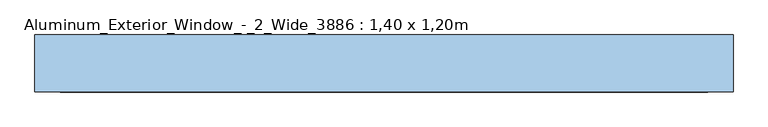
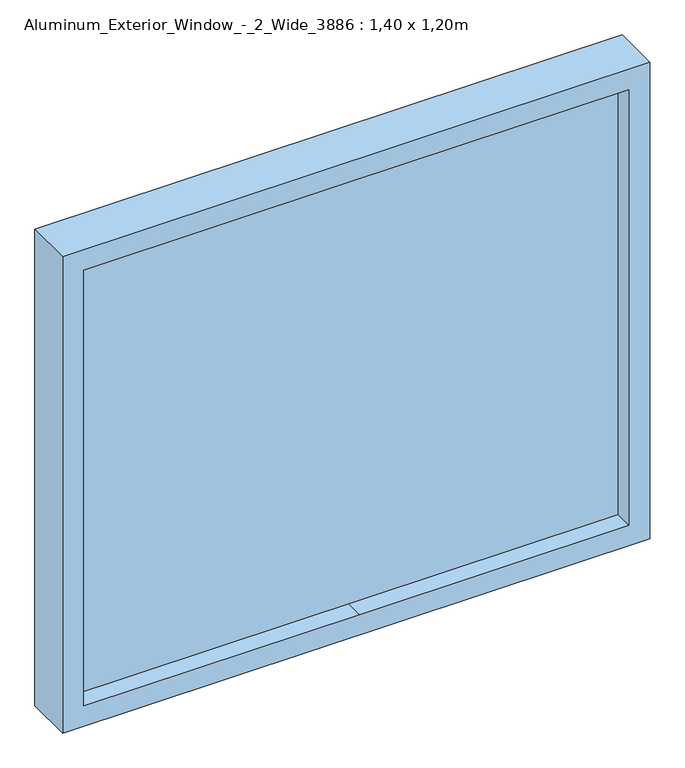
"""IFC4 building model written with IfcOpenShell, lengths in millimetres: window geometry, Aluminum_Exterior_Window_-_2_Wide_3886 : 1,40 x 1,20m."""

import ifcopenshell
import ifcopenshell.guid

model = None  # the IFC model being written
_history = None  # IfcOwnerHistory: only IFC2X3 demands one
_inside = {}  # id of a spatial element -> (the spatial element, [elements in it])
_under = {}  # id of a project, library or spatial element -> (it, [spatial elements below it])
_declared = {}  # id of a project -> (the project, [libraries it declares])
_typed = {}  # id of a type object -> (the type object, [elements of that type])
_made_of = {}  # id of a material, layer set ... -> (it, [elements and type objects made of it])


def new_model(schema):
    """Start an empty IFC model of exactly this schema.

    Asked for "IFC4X3", IfcOpenShell would pick the latest addendum, in which some entities
    have other attributes; the version numbers below select the first issue.
    IFC2X3 requires an IfcOwnerHistory on every rooted entity: one is made here for all.
    """
    global model, _history
    if schema == "IFC4X3":
        model = ifcopenshell.file(schema_version=(4, 3, 0, 0))
    else:
        model = ifcopenshell.file(schema=schema)
    _inside.clear()
    _under.clear()
    _declared.clear()
    _typed.clear()
    _made_of.clear()
    _history = None
    if model.schema == "IFC2X3":
        org = make("IfcOrganization", Name="unknown")
        user = make(
            "IfcPersonAndOrganization",
            ThePerson=make("IfcPerson", FamilyName="unknown"),
            TheOrganization=org,
        )
        app = make(
            "IfcApplication",
            ApplicationDeveloper=org,
            Version="unknown",
            ApplicationFullName="unknown",
            ApplicationIdentifier="unknown",
        )
        _history = make(
            "IfcOwnerHistory",
            OwningUser=user,
            OwningApplication=app,
            ChangeAction="ADDED",
            CreationDate=0,
        )
    return model


def make(cls, **values):
    """One entity of the class cls with the attributes given. An attribute that is None is left unset."""
    return model.create_entity(
        cls, **{name: value for name, value in values.items() if value is not None}
    )


def rooted(cls, **values):
    """An entity with a GlobalId (a new one), such as an element, a storey or a relation."""
    return make(cls, GlobalId=ifcopenshell.guid.new(), OwnerHistory=_history, **values)


def si_unit(unit_type, name, prefix=None):
    """IfcSIUnit, for example si_unit("LENGTHUNIT", "METRE", prefix="MILLI")."""
    return make("IfcSIUnit", UnitType=unit_type, Prefix=prefix, Name=name)


def assignment(units):
    """IfcUnitAssignment: the units of a project."""
    return None if units is None else make("IfcUnitAssignment", Units=units)


def point(xyz):
    """IfcCartesianPoint."""
    return None if xyz is None else make("IfcCartesianPoint", Coordinates=xyz)


def direction(xyz):
    """IfcDirection."""
    return None if xyz is None else make("IfcDirection", DirectionRatios=xyz)


def frame(location, z_axis=None, x_axis=None):
    """IfcAxis2Placement3D, a coordinate frame: its origin and axes. An axis left out is left unset."""
    return make(
        "IfcAxis2Placement3D",
        Location=point(location),
        Axis=direction(z_axis),
        RefDirection=direction(x_axis),
    )


def origin():
    """The frame at (0, 0, 0) with its axes left unset."""
    return frame((0.0, 0.0, 0.0))


def place(relative_to, where):
    """IfcLocalPlacement: puts the frame where relative to a parent placement (None: the world)."""
    return make(
        "IfcLocalPlacement", PlacementRelTo=relative_to, RelativePlacement=where
    )


def context(
    kind, dimensions, precision=None, world=None, true_north=None, identifier=None
):
    """IfcGeometricRepresentationContext, for example the 3D "Model" context."""
    return make(
        "IfcGeometricRepresentationContext",
        ContextIdentifier=identifier,
        ContextType=kind,
        CoordinateSpaceDimension=dimensions,
        Precision=precision,
        WorldCoordinateSystem=world,
        TrueNorth=true_north,
    )


def project(units=None, contexts=None):
    """IfcProject with its units and contexts."""
    return rooted(
        "IfcProject",
        Name="project",
        RepresentationContexts=contexts,
        UnitsInContext=assignment(units),
    )


def spatial(cls, under=None, at=None, **own):
    """A site, building, storey or space (cls), placed at a placement, below another one or the project."""
    s = rooted(cls, ObjectPlacement=at, **own)
    if under is not None:
        _under.setdefault(under.id(), (under, []))[1].append(s)
    return s


def polyline(points):
    """IfcPolyline through the points."""
    return make("IfcPolyline", Points=[point(p) for p in points])


def outline(outer, holes=None, kind="AREA"):
    """IfcArbitraryClosedProfileDef: a profile drawn as a closed curve; with holes, ...WithVoids."""
    if holes is None:
        return make("IfcArbitraryClosedProfileDef", ProfileType=kind, OuterCurve=outer)
    return make(
        "IfcArbitraryProfileDefWithVoids",
        ProfileType=kind,
        OuterCurve=outer,
        InnerCurves=holes,
    )


def extrude(swept, where, along, depth):
    """IfcExtrudedAreaSolid: the profile swept, set in the frame where, extruded along a direction by depth."""
    return make(
        "IfcExtrudedAreaSolid",
        SweptArea=swept,
        Position=where,
        ExtrudedDirection=direction(along),
        Depth=depth,
    )


def shape(context_of_items, identifier, shape_type, items):
    """IfcShapeRepresentation: the items that make up one representation, for example the "Body"."""
    return make(
        "IfcShapeRepresentation",
        ContextOfItems=context_of_items,
        RepresentationIdentifier=identifier,
        RepresentationType=shape_type,
        Items=items,
    )


def source(mapping_origin, context_of_items, identifier, shape_type, items):
    """IfcRepresentationMap: a shape defined once, which mapped items show again and again."""
    return make(
        "IfcRepresentationMap",
        MappingOrigin=mapping_origin,
        MappedRepresentation=shape(context_of_items, identifier, shape_type, items),
    )


def transform(
    local_origin,
    x_axis=None,
    y_axis=None,
    z_axis=None,
    scale=None,
    scale2=None,
    scale3=None,
    uniform=True,
):
    """IfcCartesianTransformationOperator3D, or its non-uniform kind. x_axis, y_axis, z_axis: its Axis1, 2, 3."""
    if uniform:
        return make(
            "IfcCartesianTransformationOperator3D",
            Axis1=direction(x_axis),
            Axis2=direction(y_axis),
            LocalOrigin=point(local_origin),
            Scale=scale,
            Axis3=direction(z_axis),
        )
    return make(
        "IfcCartesianTransformationOperator3DnonUniform",
        Axis1=direction(x_axis),
        Axis2=direction(y_axis),
        LocalOrigin=point(local_origin),
        Scale=scale,
        Axis3=direction(z_axis),
        Scale2=scale2,
        Scale3=scale3,
    )


def mapped(mapping_source, mapping_target):
    """IfcMappedItem: shows the shape of a source again, moved by a transform."""
    return make(
        "IfcMappedItem", MappingSource=mapping_source, MappingTarget=mapping_target
    )


def made_of(thing, what):
    """Note that an element or type object is made of a material, layer set ...; save() writes the relation."""
    if what is not None:
        _made_of.setdefault(what.id(), (what, []))[1].append(thing)
    return thing


def element(
    cls,
    number,
    at=None,
    inside=None,
    cuts=None,
    type_object=None,
    material=None,
    context=None,
    identifier="Body",
    shape_type=None,
    held_by="IfcProductDefinitionShape",
    body=None,
    shapes=None,
    **own,
):
    """One element of the class cls, such as IfcWall. Its Tag is "e" and its number.

    at: its placement. inside: the storey or other place that contains it. cuts: it is an
    opening in that element (IfcRelVoidsElement). A single representation is given by context,
    identifier, shape_type and body (its items); several are given by shapes. held_by: the class
    of the entity that holds the representations. save() writes the other relations.
    """
    e = rooted(cls, Tag="e%d" % number, ObjectPlacement=at, **own)
    if body is not None:
        shapes = [shape(context, identifier, shape_type, body)]
    if shapes is not None:
        e.Representation = make(held_by, Representations=shapes)
    if inside is not None:
        _inside.setdefault(inside.id(), (inside, []))[1].append(e)
    if cuts is not None:
        rooted(
            "IfcRelVoidsElement", RelatingBuildingElement=cuts, RelatedOpeningElement=e
        )
    if type_object is not None:
        _typed.setdefault(type_object.id(), (type_object, []))[1].append(e)
    return made_of(e, material)


def aggregate(whole, parts):
    """IfcRelAggregates: a whole, such as a stair, and the parts it consists of."""
    return rooted("IfcRelAggregates", RelatingObject=whole, RelatedObjects=parts)


def save(model, path):
    """Write the relations noted so far, then the file.

    IfcRelAggregates (storeys below a building ...), IfcRelContainedInSpatialStructure (elements
    in a storey), IfcRelDefinesByType, IfcRelAssociatesMaterial and IfcRelDeclares: one each for
    every whole, place, type object, material and project.
    """
    for whole, parts in _under.values():
        aggregate(whole, parts)
    for where, things in _inside.values():
        rooted(
            "IfcRelContainedInSpatialStructure",
            RelatedElements=things,
            RelatingStructure=where,
        )
    for kind, things in _typed.values():
        rooted("IfcRelDefinesByType", RelatedObjects=things, RelatingType=kind)
    for what, things in _made_of.values():
        rooted("IfcRelAssociatesMaterial", RelatedObjects=things, RelatingMaterial=what)
    for by, libraries in _declared.values():
        rooted("IfcRelDeclares", RelatingContext=by, RelatedDefinitions=libraries)
    model.write(path)


def aluminum_exterior_window_2_wide_3886_1_40_x_1_20m_cee707eb(model_context):
    return source(origin(), model_context, "Body", "SweptSolid", [
        extrude(outline(polyline([(2260.0, -1371.6), (1060.0, -1371.6), (1060.0, 28.4), (2260.0, 28.4), (2260.0, -1371.6)]), holes=[polyline([(2209.2, -697.0), (2209.2, -22.4), (1110.8, -22.4), (1110.8, -663.8808837), (1110.8, -1320.8), (2209.2, -1320.8), (2209.2, -697.0)])]), frame((0.0, -38.1424754, 0.0), z_axis=(0.0, 1.0, 0.0), x_axis=(0.0, 0.0, 1.0)), (0.0, 0.0, 1.0), 114.3),
        extrude(outline(polyline([(2209.2, -697.0), (2209.2, -1320.8), (1110.8, -1320.8), (1110.8, -670.891469), (1110.8, -22.4), (2209.2, -22.4), (2209.2, -697.0)])), frame((0.0, 6.3075246, 0.0), z_axis=(0.0, 1.0, 0.0), x_axis=(0.0, 0.0, 1.0)), (0.0, 0.0, 1.0), 25.4),
    ])


if __name__ == "__main__":
    model = new_model("IFC4")
    model_context = context("Model", 3, world=origin())
    ifc_project = project(units=[si_unit("LENGTHUNIT", "METRE", prefix="MILLI")], contexts=[model_context])
    site = spatial("IfcSite", under=ifc_project)
    building = spatial("IfcBuilding", under=site)
    placement = place(None, origin())
    aluminum_exterior_window_2_wide_3886_1_40_x_1_20m_shape = aluminum_exterior_window_2_wide_3886_1_40_x_1_20m_cee707eb(model_context)
    element("IfcWindow", 1, ObjectType="Aluminum_Exterior_Window_-_2_Wide_3886 : 1,40 x 1,20m", at=placement, inside=building, context=model_context, shape_type="MappedRepresentation", body=[
        mapped(aluminum_exterior_window_2_wide_3886_1_40_x_1_20m_shape, transform((0.0, 0.0, 0.0), x_axis=(1.0, 0.0, 0.0), y_axis=(0.0, 1.0, 0.0), z_axis=(0.0, 0.0, 1.0))),
    ])
    save(model, "model.ifc")
